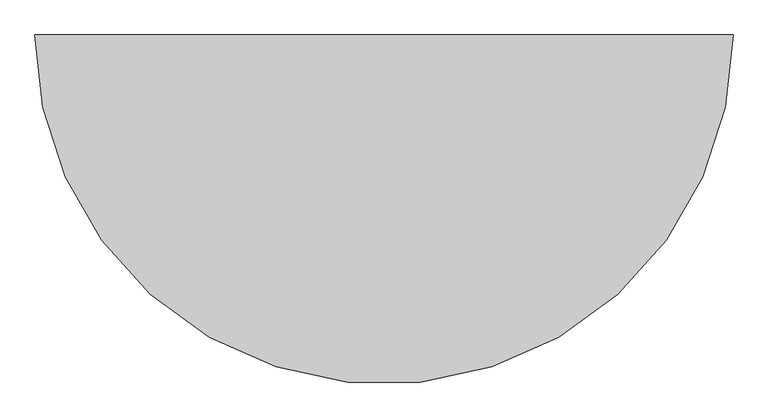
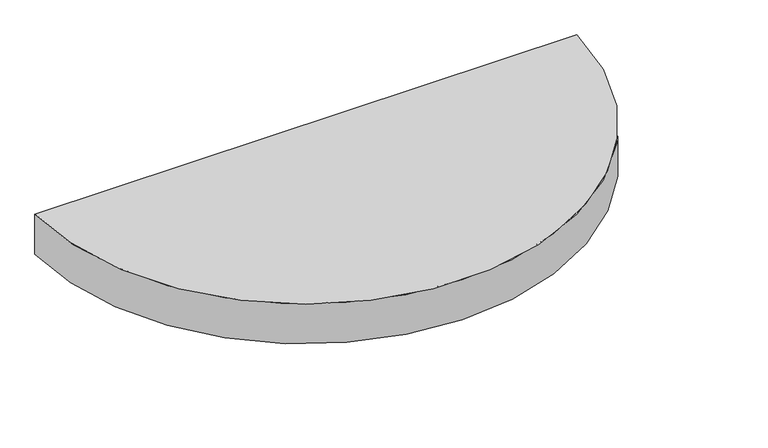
"""IFC4 building model written with IfcOpenShell, lengths in millimetres: furniture geometry, Memo_Candy_Table_EndUnit : Memo_Candy_Table_EndUnit."""

from ifc_helpers import new_model, si_unit, point, frame, frame_2d, origin, origin_with_axes, place, context, project, spatial, polyline, circle_curve, trimmed, segment, composite_curve, outline, extrude, source, transform, mapped, element, save


def furniture_8e5c6466(model_context):
    return source(origin(), model_context, "Body", "SweptSolid", [
        extrude(outline(composite_curve([segment(trimmed(circle_curve(frame_2d((-721.6405528, 342.9)), 14.2875), [point((-707.3530528, 342.9))], [point((-735.9280528, 342.9))], False, "CARTESIAN"), True, "CONTINUOUS"), segment(trimmed(circle_curve(frame_2d((-721.6405528, 342.9)), 14.2875), [point((-735.9280528, 342.9))], [point((-707.3530528, 342.9))], False, "CARTESIAN"), True, "CONTINUOUS")], self_intersect=False)), origin_with_axes(), (0.0, 0.0, 1.0), 10.2362),
        extrude(outline(composite_curve([segment(trimmed(circle_curve(frame_2d((-511.8745989, -111.8245989)), 14.2875), [point((-497.5870989, -111.8245989))], [point((-526.1620989, -111.8245989))], False, "CARTESIAN"), True, "CONTINUOUS"), segment(trimmed(circle_curve(frame_2d((-511.8745989, -111.8245989)), 14.2875), [point((-526.1620989, -111.8245989))], [point((-497.5870989, -111.8245989))], False, "CARTESIAN"), True, "CONTINUOUS")], self_intersect=False)), origin_with_axes(), (0.0, 0.0, 1.0), 10.2362),
        extrude(outline(composite_curve([segment(trimmed(circle_curve(frame_2d((0.0, -323.85)), 14.2875), [point((14.2875, -323.85))], [point((-14.2875, -323.85))], False, "CARTESIAN"), True, "CONTINUOUS"), segment(trimmed(circle_curve(frame_2d((0.0, -323.85)), 14.2875), [point((-14.2875, -323.85))], [point((14.2875, -323.85))], False, "CARTESIAN"), True, "CONTINUOUS")], self_intersect=False)), origin_with_axes(), (0.0, 0.0, 1.0), 10.2362),
        extrude(outline(composite_curve([segment(trimmed(circle_curve(frame_2d((0.0, 342.9)), 14.2875), [point((14.2875, 342.9))], [point((-14.2875, 342.9))], False, "CARTESIAN"), True, "CONTINUOUS"), segment(trimmed(circle_curve(frame_2d((0.0, 342.9)), 14.2875), [point((-14.2875, 342.9))], [point((14.2875, 342.9))], False, "CARTESIAN"), True, "CONTINUOUS")], self_intersect=False)), origin_with_axes(), (0.0, 0.0, 1.0), 10.2362),
        extrude(outline(composite_curve([segment(trimmed(circle_curve(frame_2d((721.6405528, 342.9)), 14.2875), [point((707.3530528, 342.9))], [point((735.9280528, 342.9))], False, "CARTESIAN"), True, "CONTINUOUS"), segment(trimmed(circle_curve(frame_2d((721.6405528, 342.9)), 14.2875), [point((735.9280528, 342.9))], [point((707.3530528, 342.9))], False, "CARTESIAN"), True, "CONTINUOUS")], self_intersect=False)), origin_with_axes(), (0.0, 0.0, 1.0), 10.2362),
        extrude(outline(composite_curve([segment(trimmed(circle_curve(frame_2d((511.8745989, -111.8245989)), 14.2875), [point((497.5870989, -111.8245989))], [point((526.1620989, -111.8245989))], False, "CARTESIAN"), True, "CONTINUOUS"), segment(trimmed(circle_curve(frame_2d((511.8745989, -111.8245989)), 14.2875), [point((526.1620989, -111.8245989))], [point((497.5870989, -111.8245989))], False, "CARTESIAN"), True, "CONTINUOUS")], self_intersect=False)), origin_with_axes(), (0.0, 0.0, 1.0), 10.2362),
        extrude(outline(composite_curve([segment(trimmed(circle_curve(frame_2d((0.0, 400.05)), 774.7), [point((774.7, 400.05))], [point((-774.7, 400.05))], False, "CARTESIAN"), True, "CONTINUOUS"), segment(polyline([(-774.7, 400.05), (774.7, 400.05)]), True, "CONTINUOUS")], self_intersect=False)), frame((0.0, 0.0, 10.2362), z_axis=(0.0, 0.0, 1.0), x_axis=(1.0, 0.0, 0.0)), (0.0, 0.0, 1.0), 120.65),
    ])


if __name__ == "__main__":
    model = new_model("IFC4")
    model_context = context("Model", 3, world=origin())
    ifc_project = project(units=[si_unit("LENGTHUNIT", "METRE", prefix="MILLI")], contexts=[model_context])
    site = spatial("IfcSite", under=ifc_project)
    building = spatial("IfcBuilding", under=site)
    placement = place(None, origin())
    furniture_shape = furniture_8e5c6466(model_context)
    element("IfcFurniture", 1, ObjectType="Memo_Candy_Table_EndUnit : Memo_Candy_Table_EndUnit", at=placement, inside=building, context=model_context, shape_type="MappedRepresentation", body=[
        mapped(furniture_shape, transform((0.0, 0.0, 0.0), x_axis=(1.0, 0.0, 0.0), y_axis=(0.0, 1.0, 0.0), z_axis=(0.0, 0.0, 1.0))),
    ])
    save(model, "model.ifc")
